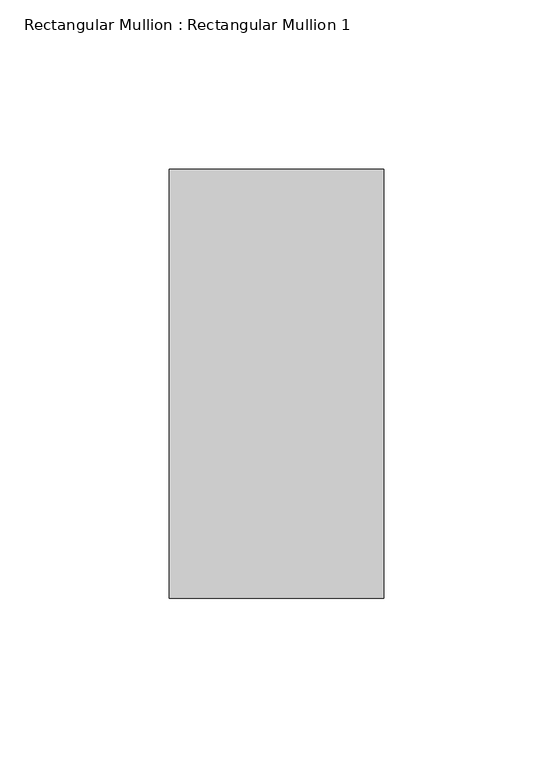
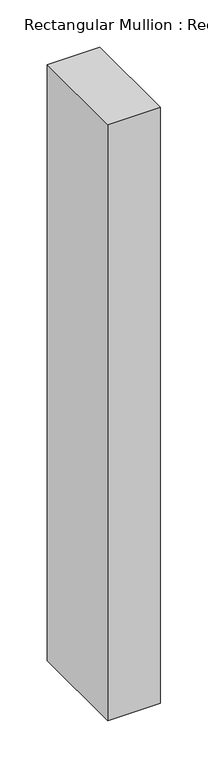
"""IFC4 building model written with IfcOpenShell, lengths in millimetres: member geometry, Rectangular Mullion : Rectangular Mullion 1."""

import ifcopenshell
import ifcopenshell.guid

model = None  # the IFC model being written
_history = None  # IfcOwnerHistory: only IFC2X3 demands one
_inside = {}  # id of a spatial element -> (the spatial element, [elements in it])
_under = {}  # id of a project, library or spatial element -> (it, [spatial elements below it])
_declared = {}  # id of a project -> (the project, [libraries it declares])
_typed = {}  # id of a type object -> (the type object, [elements of that type])
_made_of = {}  # id of a material, layer set ... -> (it, [elements and type objects made of it])


def new_model(schema):
    """Start an empty IFC model of exactly this schema.

    Asked for "IFC4X3", IfcOpenShell would pick the latest addendum, in which some entities
    have other attributes; the version numbers below select the first issue.
    IFC2X3 requires an IfcOwnerHistory on every rooted entity: one is made here for all.
    """
    global model, _history
    if schema == "IFC4X3":
        model = ifcopenshell.file(schema_version=(4, 3, 0, 0))
    else:
        model = ifcopenshell.file(schema=schema)
    _inside.clear()
    _under.clear()
    _declared.clear()
    _typed.clear()
    _made_of.clear()
    _history = None
    if model.schema == "IFC2X3":
        org = make("IfcOrganization", Name="unknown")
        user = make(
            "IfcPersonAndOrganization",
            ThePerson=make("IfcPerson", FamilyName="unknown"),
            TheOrganization=org,
        )
        app = make(
            "IfcApplication",
            ApplicationDeveloper=org,
            Version="unknown",
            ApplicationFullName="unknown",
            ApplicationIdentifier="unknown",
        )
        _history = make(
            "IfcOwnerHistory",
            OwningUser=user,
            OwningApplication=app,
            ChangeAction="ADDED",
            CreationDate=0,
        )
    return model


def make(cls, **values):
    """One entity of the class cls with the attributes given. An attribute that is None is left unset."""
    return model.create_entity(
        cls, **{name: value for name, value in values.items() if value is not None}
    )


def rooted(cls, **values):
    """An entity with a GlobalId (a new one), such as an element, a storey or a relation."""
    return make(cls, GlobalId=ifcopenshell.guid.new(), OwnerHistory=_history, **values)


def si_unit(unit_type, name, prefix=None):
    """IfcSIUnit, for example si_unit("LENGTHUNIT", "METRE", prefix="MILLI")."""
    return make("IfcSIUnit", UnitType=unit_type, Prefix=prefix, Name=name)


def assignment(units):
    """IfcUnitAssignment: the units of a project."""
    return None if units is None else make("IfcUnitAssignment", Units=units)


def point(xyz):
    """IfcCartesianPoint."""
    return None if xyz is None else make("IfcCartesianPoint", Coordinates=xyz)


def direction(xyz):
    """IfcDirection."""
    return None if xyz is None else make("IfcDirection", DirectionRatios=xyz)


def frame(location, z_axis=None, x_axis=None):
    """IfcAxis2Placement3D, a coordinate frame: its origin and axes. An axis left out is left unset."""
    return make(
        "IfcAxis2Placement3D",
        Location=point(location),
        Axis=direction(z_axis),
        RefDirection=direction(x_axis),
    )


def origin():
    """The frame at (0, 0, 0) with its axes left unset."""
    return frame((0.0, 0.0, 0.0))


def place(relative_to, where):
    """IfcLocalPlacement: puts the frame where relative to a parent placement (None: the world)."""
    return make(
        "IfcLocalPlacement", PlacementRelTo=relative_to, RelativePlacement=where
    )


def context(
    kind, dimensions, precision=None, world=None, true_north=None, identifier=None
):
    """IfcGeometricRepresentationContext, for example the 3D "Model" context."""
    return make(
        "IfcGeometricRepresentationContext",
        ContextIdentifier=identifier,
        ContextType=kind,
        CoordinateSpaceDimension=dimensions,
        Precision=precision,
        WorldCoordinateSystem=world,
        TrueNorth=true_north,
    )


def project(units=None, contexts=None):
    """IfcProject with its units and contexts."""
    return rooted(
        "IfcProject",
        Name="project",
        RepresentationContexts=contexts,
        UnitsInContext=assignment(units),
    )


def spatial(cls, under=None, at=None, **own):
    """A site, building, storey or space (cls), placed at a placement, below another one or the project."""
    s = rooted(cls, ObjectPlacement=at, **own)
    if under is not None:
        _under.setdefault(under.id(), (under, []))[1].append(s)
    return s


def polyline(points):
    """IfcPolyline through the points."""
    return make("IfcPolyline", Points=[point(p) for p in points])


def outline(outer, holes=None, kind="AREA"):
    """IfcArbitraryClosedProfileDef: a profile drawn as a closed curve; with holes, ...WithVoids."""
    if holes is None:
        return make("IfcArbitraryClosedProfileDef", ProfileType=kind, OuterCurve=outer)
    return make(
        "IfcArbitraryProfileDefWithVoids",
        ProfileType=kind,
        OuterCurve=outer,
        InnerCurves=holes,
    )


def extrude(swept, where, along, depth):
    """IfcExtrudedAreaSolid: the profile swept, set in the frame where, extruded along a direction by depth."""
    return make(
        "IfcExtrudedAreaSolid",
        SweptArea=swept,
        Position=where,
        ExtrudedDirection=direction(along),
        Depth=depth,
    )


def shape(context_of_items, identifier, shape_type, items):
    """IfcShapeRepresentation: the items that make up one representation, for example the "Body"."""
    return make(
        "IfcShapeRepresentation",
        ContextOfItems=context_of_items,
        RepresentationIdentifier=identifier,
        RepresentationType=shape_type,
        Items=items,
    )


def source(mapping_origin, context_of_items, identifier, shape_type, items):
    """IfcRepresentationMap: a shape defined once, which mapped items show again and again."""
    return make(
        "IfcRepresentationMap",
        MappingOrigin=mapping_origin,
        MappedRepresentation=shape(context_of_items, identifier, shape_type, items),
    )


def transform(
    local_origin,
    x_axis=None,
    y_axis=None,
    z_axis=None,
    scale=None,
    scale2=None,
    scale3=None,
    uniform=True,
):
    """IfcCartesianTransformationOperator3D, or its non-uniform kind. x_axis, y_axis, z_axis: its Axis1, 2, 3."""
    if uniform:
        return make(
            "IfcCartesianTransformationOperator3D",
            Axis1=direction(x_axis),
            Axis2=direction(y_axis),
            LocalOrigin=point(local_origin),
            Scale=scale,
            Axis3=direction(z_axis),
        )
    return make(
        "IfcCartesianTransformationOperator3DnonUniform",
        Axis1=direction(x_axis),
        Axis2=direction(y_axis),
        LocalOrigin=point(local_origin),
        Scale=scale,
        Axis3=direction(z_axis),
        Scale2=scale2,
        Scale3=scale3,
    )


def mapped(mapping_source, mapping_target):
    """IfcMappedItem: shows the shape of a source again, moved by a transform."""
    return make(
        "IfcMappedItem", MappingSource=mapping_source, MappingTarget=mapping_target
    )


def made_of(thing, what):
    """Note that an element or type object is made of a material, layer set ...; save() writes the relation."""
    if what is not None:
        _made_of.setdefault(what.id(), (what, []))[1].append(thing)
    return thing


def element(
    cls,
    number,
    at=None,
    inside=None,
    cuts=None,
    type_object=None,
    material=None,
    context=None,
    identifier="Body",
    shape_type=None,
    held_by="IfcProductDefinitionShape",
    body=None,
    shapes=None,
    **own,
):
    """One element of the class cls, such as IfcWall. Its Tag is "e" and its number.

    at: its placement. inside: the storey or other place that contains it. cuts: it is an
    opening in that element (IfcRelVoidsElement). A single representation is given by context,
    identifier, shape_type and body (its items); several are given by shapes. held_by: the class
    of the entity that holds the representations. save() writes the other relations.
    """
    e = rooted(cls, Tag="e%d" % number, ObjectPlacement=at, **own)
    if body is not None:
        shapes = [shape(context, identifier, shape_type, body)]
    if shapes is not None:
        e.Representation = make(held_by, Representations=shapes)
    if inside is not None:
        _inside.setdefault(inside.id(), (inside, []))[1].append(e)
    if cuts is not None:
        rooted(
            "IfcRelVoidsElement", RelatingBuildingElement=cuts, RelatedOpeningElement=e
        )
    if type_object is not None:
        _typed.setdefault(type_object.id(), (type_object, []))[1].append(e)
    return made_of(e, material)


def aggregate(whole, parts):
    """IfcRelAggregates: a whole, such as a stair, and the parts it consists of."""
    return rooted("IfcRelAggregates", RelatingObject=whole, RelatedObjects=parts)


def save(model, path):
    """Write the relations noted so far, then the file.

    IfcRelAggregates (storeys below a building ...), IfcRelContainedInSpatialStructure (elements
    in a storey), IfcRelDefinesByType, IfcRelAssociatesMaterial and IfcRelDeclares: one each for
    every whole, place, type object, material and project.
    """
    for whole, parts in _under.values():
        aggregate(whole, parts)
    for where, things in _inside.values():
        rooted(
            "IfcRelContainedInSpatialStructure",
            RelatedElements=things,
            RelatingStructure=where,
        )
    for kind, things in _typed.values():
        rooted("IfcRelDefinesByType", RelatedObjects=things, RelatingType=kind)
    for what, things in _made_of.values():
        rooted("IfcRelAssociatesMaterial", RelatedObjects=things, RelatingMaterial=what)
    for by, libraries in _declared.values():
        rooted("IfcRelDeclares", RelatingContext=by, RelatedDefinitions=libraries)
    model.write(path)


def rectangular_mullion_rectangular_mullion_1_92001cf6(model_context):
    return source(origin(), model_context, "Body", "SweptSolid", [
        extrude(outline(polyline([(0.0, 63.5), (0.0, -63.5), (-63.5, -63.5), (-63.5, 63.5), (0.0, 63.5)])), frame((0.0, 0.0, -765.7026365), z_axis=(0.0, 0.0, 1.0), x_axis=(1.0, 0.0, 0.0)), (0.0, 0.0, 1.0), 765.7026365),
    ])


if __name__ == "__main__":
    model = new_model("IFC4")
    model_context = context("Model", 3, world=origin())
    ifc_project = project(units=[si_unit("LENGTHUNIT", "METRE", prefix="MILLI")], contexts=[model_context])
    site = spatial("IfcSite", under=ifc_project)
    building = spatial("IfcBuilding", under=site)
    placement = place(None, origin())
    rectangular_mullion_rectangular_mullion_1_shape = rectangular_mullion_rectangular_mullion_1_92001cf6(model_context)
    element("IfcMember", 1, ObjectType="Rectangular Mullion : Rectangular Mullion 1", at=placement, inside=building, context=model_context, shape_type="MappedRepresentation", body=[
        mapped(rectangular_mullion_rectangular_mullion_1_shape, transform((0.0, 0.0, 0.0), x_axis=(1.0, 0.0, 0.0), y_axis=(0.0, 1.0, 0.0), z_axis=(0.0, 0.0, 1.0))),
    ])
    save(model, "model.ifc")
